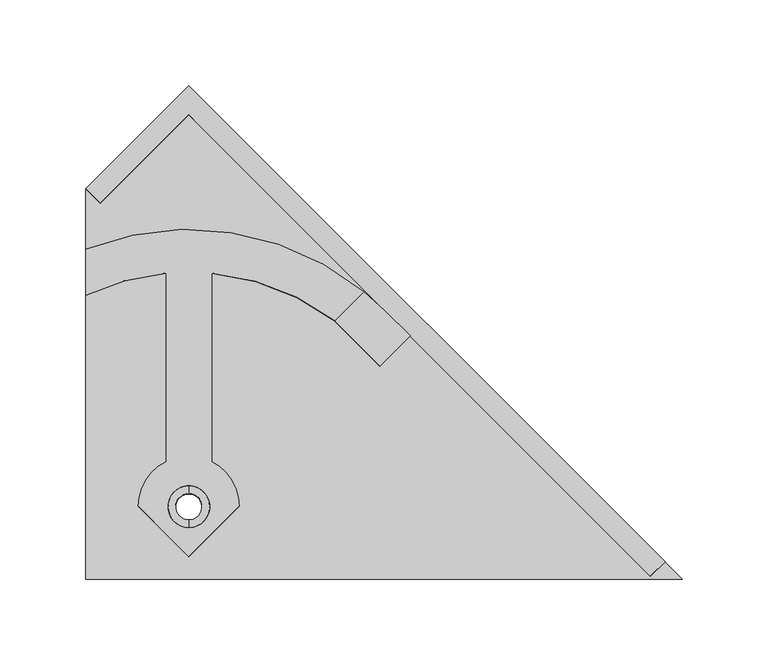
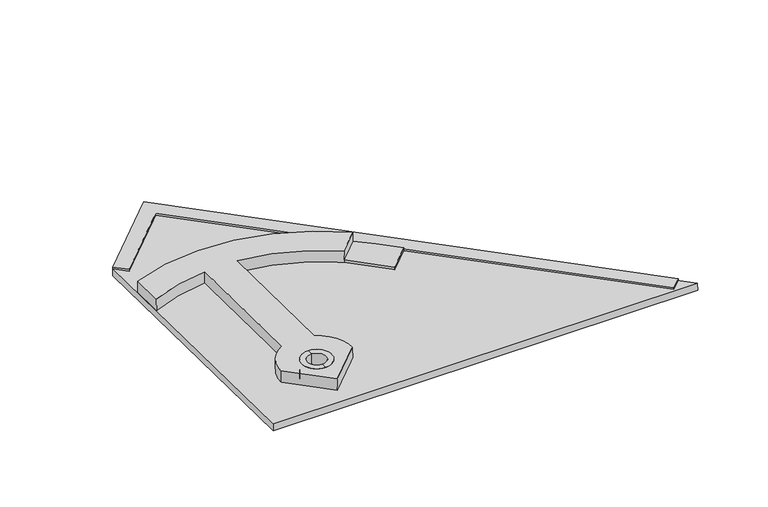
"""IFC4 building model written with IfcOpenShell, lengths in millimetres: proxy geometry, Roofing_Panels_SunStyle_Tuile_Coin-Bas-Petit-Gauche : Coin Bas Petit Gauche - Noir."""

from ifc_helpers import new_model, si_unit, point, frame, frame_2d, origin, place, context, project, spatial, polyline, circle_curve, trimmed, segment, composite_curve, outline, extrude, source, transform, mapped, element, save
from ifc_brep_helpers import plane_surface, cylinder_surface, revolved_surface, advanced_brep


def generic_models_13c94d74(model_context):
    return source(origin(), model_context, "Body", "SolidModel", [
        extrude(outline(polyline([(1e-07, -12.0), (0.0, 0.0), (380.6066467, 0.0), (380.6168821, 72.9957231), (392.616882, 72.9940404), (392.6049642, -12.0), (1e-07, -12.0)])), frame((269.1487313, 328.9431541, 10.7946449), z_axis=(0.0, 0.016745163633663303, 0.9998597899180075), x_axis=(-0.7071563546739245, 0.7069580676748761, -0.011839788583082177)), (0.0, 0.0, 1.0), 1.5),
        advanced_brep(
        [(0.0, 361.8961325, 20.2441668), (0.0, 377.2289335, 19.9873805), (0.0, 381.7283021, 19.9120273), (0.0, 357.3967639, 20.31952), (0.0, 361.6282103, 4.2464102), (0.0, 376.9610105, 3.9896239), (0.0, 357.1288413, 4.3217634), (0.0, 381.4603795, 3.9142707)],
        [
            (0, 1, circle_curve(frame((0.0, 369.562533, 20.1157737), z_axis=(0.0, -0.016745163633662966, -0.9998597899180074), x_axis=(0.0, 0.9998597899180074, -0.016745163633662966)), 7.6674755)),
            (1, 2),
            (2, 3, circle_curve(frame((0.0, 369.562533, 20.1157737), z_axis=(0.0, 0.016745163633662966, 0.9998597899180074), x_axis=(0.0, 0.9998597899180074, -0.016745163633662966)), 12.1674751)),
            (3, 0),
            (1, 0, circle_curve(frame((0.0, 369.562533, 20.1157737), z_axis=(0.0, -0.016745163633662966, -0.9998597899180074), x_axis=(0.0, 0.9998597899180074, -0.016745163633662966)), 7.6674755)),
            (3, 2, circle_curve(frame((0.0, 369.562533, 20.1157737), z_axis=(0.0, 0.016745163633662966, 0.9998597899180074), x_axis=(0.0, 0.9998597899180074, -0.016745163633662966)), 12.1674751)),
            (4, 5, circle_curve(frame((0.0, 369.2946104, 4.118017), z_axis=(0.0, -0.016745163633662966, -0.9998597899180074), x_axis=(0.0, 0.9998597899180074, -0.016745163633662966)), 7.6674751)),
            (5, 1),
            (0, 4),
            (5, 4, circle_curve(frame((0.0, 369.2946104, 4.118017), z_axis=(0.0, -0.016745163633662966, -0.9998597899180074), x_axis=(0.0, 0.9998597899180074, -0.016745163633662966)), 7.6674751)),
            (6, 7, circle_curve(frame((0.0, 369.2946104, 4.118017), z_axis=(0.0, -0.016745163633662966, -0.9998597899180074), x_axis=(0.0, 0.9998597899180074, -0.016745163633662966)), 12.1674751)),
            (7, 5),
            (4, 6),
            (7, 6, circle_curve(frame((0.0, 369.2946104, 4.118017), z_axis=(0.0, -0.016745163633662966, -0.9998597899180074), x_axis=(0.0, 0.9998597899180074, -0.016745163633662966)), 12.1674751)),
            (2, 7),
            (6, 3),
        ],
        [
            plane_surface(frame((0.0, 369.562533, 20.1157737), z_axis=(0.0, 0.016745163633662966, 0.9998597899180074), x_axis=(0.0, 0.9998597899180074, -0.016745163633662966))),
            revolved_surface(polyline([(0.0, 377.2289330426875, 19.987380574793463), (0.0, 376.96101042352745, 3.989623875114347)]), (0.0, 369.562533, 20.1157737), (0.0, 0.016745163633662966, 0.9998597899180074)),
            plane_surface(frame((0.0, 369.2946104, 4.118017), z_axis=(0.0, -0.016745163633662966, -0.9998597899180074), x_axis=(0.0, 0.9998597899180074, -0.016745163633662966))),
            cylinder_surface(frame((0.0, 369.562533, 20.1157737), z_axis=(0.0, 0.016745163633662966, 0.9998597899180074), x_axis=(0.0, 0.9998597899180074, -0.016745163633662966)), 12.1674751),
        ],
        [
            (0, [[1, 2, 3, 4]]),
            (0, [[5, -4, 6, -2]]),
            (1, [[7, 8, -1, 9]]),
            (1, [[10, -9, -5, -8]]),
            (2, [[11, 12, -7, 13]]),
            (2, [[14, -13, -10, -12]]),
            (3, [[-3, 15, -11, 16]]),
            (3, [[-6, -16, -14, -15]]),
        ],
    ),
        extrude(outline(polyline([(245.4549697, 11.9996775), (-42.1659129, -275.6615381), (-42.1659129, 72.1037539), (185.3593204, 72.1037539), (245.4549697, 11.9996775)]), holes=[composite_curve([segment(trimmed(circle_curve(frame_2d((0.0, 12.0)), 12.0), [point((0.0, 24.0))], [point((0.0, 0.0))], True, "CARTESIAN"), True, "CONTINUOUS"), segment(trimmed(circle_curve(frame_2d((0.0, 12.0)), 12.0), [point((0.0, 0.0))], [point((0.0, 24.0))], True, "CARTESIAN"), True, "CONTINUOUS")], self_intersect=False)]), frame((12.0, 369.462062, 4.1152126), z_axis=(0.0, 0.01674516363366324, 0.9998597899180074), x_axis=(0.0, 0.9998597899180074, -0.01674516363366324)), (0.0, 0.0, 1.0), 6.0),
        advanced_brep(
        [(-60.1037539, 519.6893101, 17.6015237), (-60.1037539, 492.9630774, 18.0491216), (-13.3, 505.8109871, 17.8339511), (-13.3, 395.9341043, 19.6741155), (-29.3894281, 369.7299846, 20.1129693), (0.0, 340.3446773, 20.6051), (29.3894281, 369.7299846, 20.1129693), (13.3, 395.9341043, 19.6741155), (13.3, 505.8109871, 17.8339511), (84.944396, 477.9190769, 18.3010712), (102.0275718, 494.9998575, 18.0150106), (-12.0, 369.7299846, 20.1129693), (12.0, 369.7299846, 20.1129693), (-60.1037539, 519.5218584, 7.6029258), (102.0275718, 494.8324058, 8.0164127), (114.2509691, 483.797483, 8.2012202), (128.9467134, 469.1058594, 8.4472683), (111.2690438, 451.4306685, 8.7432838), (84.9431983, 477.7528228, 8.3024532), (13.3, 505.6435355, 7.8353532), (13.3, 395.7666527, 9.6755176), (29.3894281, 369.562533, 10.1143714), (0.0, 340.1772257, 10.6065021), (-29.3894281, 369.562533, 10.1143714), (-13.3, 395.7666527, 9.6755176), (-13.3, 505.6435355, 7.8353532), (-60.1037539, 492.7956258, 8.0505237), (-12.0, 369.562533, 10.1143714), (12.0, 369.562533, 10.1143714), (102.0275718, 494.8742688, 10.5160622), (84.944396, 477.7934882, 10.8021227), (128.9467134, 469.1477223, 10.9469178), (114.2509691, 483.8393459, 10.7008697), (111.2690438, 451.4725314, 11.2429333)],
        [
            (0, 1),
            (1, 2, circle_curve(frame((0.0, 365.7229584, 20.180077), z_axis=(0.0, -0.01674516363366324, -0.9998597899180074), x_axis=(1.0, 0.0, 0.0)), 140.737522)),
            (2, 3),
            (3, 4, circle_curve(frame((0.0, 369.7299846, 20.1129693), z_axis=(0.0, 0.01674516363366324, 0.9998597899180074), x_axis=(1.0, 0.0, 0.0)), 29.3894281)),
            (4, 5),
            (5, 6),
            (6, 7, circle_curve(frame((0.0, 369.7299846, 20.1129693), z_axis=(0.0, 0.01674516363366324, 0.9998597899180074), x_axis=(1.0, 0.0, 0.0)), 29.3894281)),
            (7, 8),
            (8, 9, circle_curve(frame((0.0, 365.7229584, 20.180077), z_axis=(0.0, -0.01674516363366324, -0.9998597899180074), x_axis=(1.0, 0.0, 0.0)), 140.737522)),
            (9, 10),
            (10, 0, circle_curve(frame((0.0, 369.7299846, 20.1129693), z_axis=(0.0, 0.01674516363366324, 0.9998597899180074), x_axis=(1.0, 0.0, 0.0)), 161.57527)),
            (11, 12, circle_curve(frame((0.0, 369.7299846, 20.1129693), z_axis=(0.0, -0.01674516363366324, -0.9998597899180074), x_axis=(1.0, 0.0, 0.0)), 12.0)),
            (12, 11, circle_curve(frame((0.0, 369.7299846, 20.1129693), z_axis=(0.0, -0.01674516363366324, -0.9998597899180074), x_axis=(1.0, 0.0, 0.0)), 12.0)),
            (13, 14, circle_curve(frame((0.0, 369.562533, 10.1143714), z_axis=(0.0, -0.01674516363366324, -0.9998597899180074), x_axis=(1.0, 0.0, 0.0)), 161.57527)),
            (14, 15, circle_curve(frame((0.0, 369.562533, 10.1143714), z_axis=(0.0, -0.01674516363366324, -0.9998597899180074), x_axis=(1.0, 0.0, 0.0)), 161.57527)),
            (15, 16),
            (16, 17),
            (17, 18),
            (18, 19, circle_curve(frame((0.0, 365.5555068, 10.1814791), z_axis=(0.0, 0.01674516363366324, 0.9998597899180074), x_axis=(1.0, 0.0, 0.0)), 140.737522)),
            (19, 20),
            (20, 21, circle_curve(frame((0.0, 369.562533, 10.1143714), z_axis=(0.0, -0.01674516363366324, -0.9998597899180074), x_axis=(1.0, 0.0, 0.0)), 29.3894281)),
            (21, 22),
            (22, 23),
            (23, 24, circle_curve(frame((0.0, 369.562533, 10.1143714), z_axis=(0.0, -0.01674516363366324, -0.9998597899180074), x_axis=(1.0, 0.0, 0.0)), 29.3894281)),
            (24, 25),
            (25, 26, circle_curve(frame((0.0, 365.5555068, 10.1814791), z_axis=(0.0, 0.01674516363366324, 0.9998597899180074), x_axis=(1.0, 0.0, 0.0)), 140.737522)),
            (26, 13),
            (27, 28, circle_curve(frame((0.0, 369.562533, 10.1143714), z_axis=(0.0, 0.01674516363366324, 0.9998597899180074), x_axis=(1.0, 0.0, 0.0)), 12.0)),
            (28, 27, circle_curve(frame((0.0, 369.562533, 10.1143714), z_axis=(0.0, 0.01674516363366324, 0.9998597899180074), x_axis=(1.0, 0.0, 0.0)), 12.0)),
            (2, 25),
            (24, 3),
            (23, 4),
            (22, 5),
            (21, 6),
            (20, 7),
            (19, 8),
            (10, 29),
            (29, 14),
            (13, 0),
            (11, 27),
            (28, 12),
            (9, 30),
            (30, 29),
            (1, 26),
            (18, 30),
            (31, 32),
            (32, 29, circle_curve(frame((0.0, 369.6043959, 12.6140208), z_axis=(0.0, 0.01674516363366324, 0.9998597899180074), x_axis=(1.0, 0.0, 0.0)), 161.57527)),
            (30, 33),
            (33, 31),
            (31, 16),
            (15, 32),
            (33, 17),
        ],
        [
            plane_surface(frame((-60.1037539, 555.0633158, 17.0090971), z_axis=(0.0, 0.01674516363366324, 0.9998597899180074), x_axis=(0.0, -0.9998597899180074, 0.01674516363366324))),
            plane_surface(frame((-60.1037539, 554.8958642, 7.0104992), z_axis=(0.0, -0.01674516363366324, -0.9998597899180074), x_axis=(0.0, 0.9998597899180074, -0.01674516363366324))),
            plane_surface(frame((-13.3, 505.8109871, 17.8339511), z_axis=(-1.0000000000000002, 0.0, 0.0), x_axis=(0.0, -0.01674516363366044, -0.9998597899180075))),
            cylinder_surface(frame((0.0, 369.562533, 10.1143714), z_axis=(0.0, 0.01674516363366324, 0.9998597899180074), x_axis=(1.0, 0.0, 0.0)), 29.3894281),
            plane_surface(frame((-29.3894281, 369.7299846, 20.1129693), z_axis=(-0.7071067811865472, -0.7070076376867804, 0.011840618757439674), x_axis=(0.0, -0.01674516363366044, -0.9998597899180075))),
            plane_surface(frame((0.0, 340.3446773, 20.6051), z_axis=(0.7071067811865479, -0.7070076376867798, 0.01184061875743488), x_axis=(0.0, -0.016745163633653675, -0.9998597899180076))),
            plane_surface(frame((13.3, 395.9341043, 19.6741155), z_axis=(1.0000000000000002, 0.0, 0.0), x_axis=(0.0, -0.016745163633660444, -0.9998597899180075))),
            cylinder_surface(frame((0.0, 369.562533, 10.1143714), z_axis=(0.0, 0.01674516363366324, 0.9998597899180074), x_axis=(1.0, 0.0, 0.0)), 161.57527),
            revolved_surface(polyline([(12.0, 369.562533, 10.1143714), (12.0, 369.72998463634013, 20.112969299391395)]), (0.0, 369.562533, 10.1143714), (0.0, -0.01674516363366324, -0.9998597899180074)),
            plane_surface(frame((84.944396, 477.9190769, 18.3010712), z_axis=(0.7071067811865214, -0.7070076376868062, 0.011840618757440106), x_axis=(0.0, -0.01674516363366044, -0.9998597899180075))),
            revolved_surface(polyline([(140.737522, 365.5555067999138, 10.18147909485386), (140.737522, 365.722958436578, 20.18007701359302)]), (0.0, 365.5555068, 10.1814791), (0.0, -0.01674516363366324, -0.9998597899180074)),
            revolved_surface(polyline([(140.737522, 365.55550679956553, 10.181479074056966), (140.737522, 365.72295843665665, 20.180077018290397)]), (0.0, 365.5555068, 10.1814791), (0.0, -0.01674516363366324, -0.9998597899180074)),
            plane_surface(frame((-60.1037539, 519.6893101, 17.6015237), z_axis=(-1.0000000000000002, 0.0, 0.0), x_axis=(0.0, -0.01674516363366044, -0.9998597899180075))),
            plane_surface(frame((128.9467134, 469.1477223, 10.9469178), z_axis=(0.0, 0.01674516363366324, 0.9998597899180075), x_axis=(-0.7071563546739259, 0.7069580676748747, -0.011839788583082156))),
            plane_surface(frame((128.9467134, 469.1477223, 10.9469178), z_axis=(0.7070572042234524, 0.7070572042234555, -0.011841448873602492), x_axis=(0.0, -0.016745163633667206, -0.9998597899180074))),
            plane_surface(frame((111.2690438, 451.4725314, 11.2429333), z_axis=(0.7071067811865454, -0.7070076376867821, 0.011840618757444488), x_axis=(0.0, -0.016745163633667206, -0.9998597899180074))),
            plane_surface(frame((84.9431983, 477.7946858, 10.8021027), z_axis=(-0.7071067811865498, -0.7070076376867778, 0.011840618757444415), x_axis=(0.0, -0.016745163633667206, -0.9998597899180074))),
        ],
        [
            (0, [[1, 2, 3, 4, 5, 6, 7, 8, 9, 10, 11], [12, 13]]),
            (1, [[14, 15, 16, 17, 18, 19, 20, 21, 22, 23, 24, 25, 26, 27], [28, 29]]),
            (2, [[-3, 30, -25, 31]]),
            (3, [[-4, -31, -24, 32]]),
            (4, [[-5, -32, -23, 33]]),
            (5, [[-6, -33, -22, 34]]),
            (3, [[-7, -34, -21, 35]]),
            (6, [[-8, -35, -20, 36]]),
            (7, [[-11, 37, 38, -14, 39]]),
            (8, [[-12, 40, -29, 41]]),
            (8, [[-13, -41, -28, -40]]),
            (9, [[-10, 42, 43, -37]]),
            (10, [[-2, 44, -26, -30]]),
            (11, [[-9, -36, -19, 45, -42]]),
            (12, [[-1, -39, -27, -44]]),
            (13, [[46, 47, -43, 48, 49]]),
            (14, [[-46, 50, -16, 51]]),
            (15, [[-49, 52, -17, -50]]),
            (7, [[-47, -51, -15, -38]]),
            (16, [[-48, -45, -18, -52]]),
        ],
    ),
    ])


if __name__ == "__main__":
    model = new_model("IFC4")
    model_context = context("Model", 3, world=origin())
    ifc_project = project(units=[si_unit("LENGTHUNIT", "METRE", prefix="MILLI")], contexts=[model_context])
    site = spatial("IfcSite", under=ifc_project)
    building = spatial("IfcBuilding", under=site)
    placement = place(None, origin())
    generic_models_shape = generic_models_13c94d74(model_context)
    element("IfcBuildingElementProxy", 1, Name="Roofing_Panels_SunStyle_Tuile_Coin-Bas-Petit-Gauche : Coin Bas Petit Gauche - Noir", ObjectType="Roofing_Panels_SunStyle_Tuile_Coin-Bas-Petit-Gauche : Coin Bas Petit Gauche - Noir", at=placement, inside=building, context=model_context, shape_type="MappedRepresentation", body=[
        mapped(generic_models_shape, transform((0.0, 0.0, 0.0), x_axis=(1.0, 0.0, 0.0), y_axis=(0.0, 1.0, 0.0), z_axis=(0.0, 0.0, 1.0))),
    ])
    save(model, "model.ifc")
